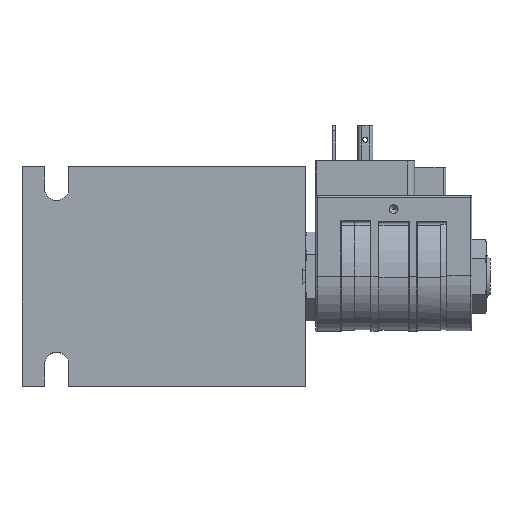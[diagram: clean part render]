
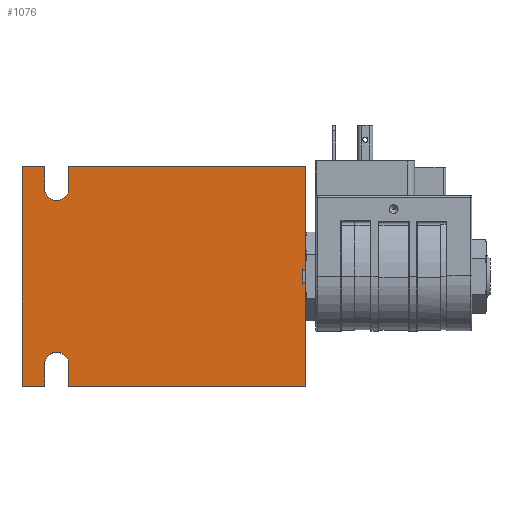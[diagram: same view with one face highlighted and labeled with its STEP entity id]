
A CAD part, top view. The second image highlights one B-rep face of the part: STEP entity #1076.
In plain terms, the highlighted planar face has unit normal (0, 0, 1).
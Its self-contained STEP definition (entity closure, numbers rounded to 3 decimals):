
#1076 = ADVANCED_FACE( '', ( #2242 ), #2243, .F. );
#2242 = FACE_OUTER_BOUND( '', #3933, .T. );
#2243 = PLANE( '', #3934 );
#3933 = EDGE_LOOP( '', ( #6053, #6054, #6055, #6056, #6057, #6058, #6059, #6060, #6061, #6062, #6063, #6064, #6065, #6066, #6067, #6068 ) );
#3934 = AXIS2_PLACEMENT_3D( '', #6069, #6070, #6071 );
#6053 = ORIENTED_EDGE( '', *, *, #8940, .F. );
#6054 = ORIENTED_EDGE( '', *, *, #9136, .F. );
#6055 = ORIENTED_EDGE( '', *, *, #9036, .F. );
#6056 = ORIENTED_EDGE( '', *, *, #9041, .F. );
#6057 = ORIENTED_EDGE( '', *, *, #9137, .F. );
#6058 = ORIENTED_EDGE( '', *, *, #9138, .T. );
#6059 = ORIENTED_EDGE( '', *, *, #9139, .T. );
#6060 = ORIENTED_EDGE( '', *, *, #8979, .T. );
#6061 = ORIENTED_EDGE( '', *, *, #9140, .F. );
#6062 = ORIENTED_EDGE( '', *, *, #9141, .F. );
#6063 = ORIENTED_EDGE( '', *, *, #9142, .T. );
#6064 = ORIENTED_EDGE( '', *, *, #9143, .T. );
#6065 = ORIENTED_EDGE( '', *, *, #9144, .T. );
#6066 = ORIENTED_EDGE( '', *, *, #9145, .F. );
#6067 = ORIENTED_EDGE( '', *, *, #9146, .F. );
#6068 = ORIENTED_EDGE( '', *, *, #9147, .F. );
#6069 = CARTESIAN_POINT( '', ( 0., 0., 31.75 ) );
#6070 = DIRECTION( '', ( 0., 0., -1. ) );
#6071 = DIRECTION( '', ( -1., 0., 0. ) );
#8940 = EDGE_CURVE( '', #11172, #11174, #11175, .T. );
#8979 = EDGE_CURVE( '', #11240, #11238, #11241, .T. );
#9036 = EDGE_CURVE( '', #11333, #11329, #11335, .T. );
#9041 = EDGE_CURVE( '', #11341, #11333, #11343, .T. );
#9136 = EDGE_CURVE( '', #11329, #11172, #11489, .T. );
#9137 = EDGE_CURVE( '', #11490, #11341, #11491, .T. );
#9138 = EDGE_CURVE( '', #11490, #11492, #11493, .T. );
#9139 = EDGE_CURVE( '', #11492, #11240, #11494, .T. );
#9140 = EDGE_CURVE( '', #11495, #11238, #11496, .T. );
#9141 = EDGE_CURVE( '', #11497, #11495, #11498, .T. );
#9142 = EDGE_CURVE( '', #11497, #11499, #11500, .T. );
#9143 = EDGE_CURVE( '', #11499, #11501, #11502, .T. );
#9144 = EDGE_CURVE( '', #11501, #11503, #11504, .F. );
#9145 = EDGE_CURVE( '', #11505, #11503, #11506, .T. );
#9146 = EDGE_CURVE( '', #11507, #11505, #11508, .T. );
#9147 = EDGE_CURVE( '', #11174, #11507, #11509, .T. );
#11172 = VERTEX_POINT( '', #13866 );
#11174 = VERTEX_POINT( '', #13869 );
#11175 = CIRCLE( '', #13870, 3.5 );
#11238 = VERTEX_POINT( '', #13964 );
#11240 = VERTEX_POINT( '', #13967 );
#11241 = LINE( '', #13968, #13969 );
#11329 = VERTEX_POINT( '', #14117 );
#11333 = VERTEX_POINT( '', #14123 );
#11335 = LINE( '', #14126, #14127 );
#11341 = VERTEX_POINT( '', #14134 );
#11343 = LINE( '', #14137, #14138 );
#11489 = LINE( '', #14571, #14572 );
#11490 = VERTEX_POINT( '', #14573 );
#11491 = LINE( '', #14574, #14575 );
#11492 = VERTEX_POINT( '', #14576 );
#11493 = LINE( '', #14577, #14578 );
#11494 = CIRCLE( '', #14579, 3.5 );
#11495 = VERTEX_POINT( '', #14580 );
#11496 = LINE( '', #14581, #14582 );
#11497 = VERTEX_POINT( '', #14583 );
#11498 = LINE( '', #14584, #14585 );
#11499 = VERTEX_POINT( '', #14586 );
#11500 = LINE( '', #14587, #14588 );
#11501 = VERTEX_POINT( '', #14589 );
#11502 = LINE( '', #14590, #14591 );
#11503 = VERTEX_POINT( '', #14592 );
#11504 = LINE( '', #14593, #14594 );
#11505 = VERTEX_POINT( '', #14595 );
#11506 = LINE( '', #14596, #14597 );
#11507 = VERTEX_POINT( '', #14598 );
#11508 = LINE( '', #14599, #14600 );
#11509 = LINE( '', #14601, #14602 );
#13866 = CARTESIAN_POINT( '', ( -34.5, 25.4, 31.75 ) );
#13869 = CARTESIAN_POINT( '', ( -27.5, 25.4, 31.75 ) );
#13870 = AXIS2_PLACEMENT_3D( '', #17924, #17925, #17926 );
#13964 = CARTESIAN_POINT( '', ( -27.5, -31.75, 31.75 ) );
#13967 = CARTESIAN_POINT( '', ( -27.5, -25.4, 31.75 ) );
#13968 = CARTESIAN_POINT( '', ( -27.5, -25.4, 31.75 ) );
#13969 = VECTOR( '', #17969, 1000. );
#14117 = CARTESIAN_POINT( '', ( -34.5, 31.75, 31.75 ) );
#14123 = CARTESIAN_POINT( '', ( -41., 31.75, 31.75 ) );
#14126 = CARTESIAN_POINT( '', ( -41., 31.75, 31.75 ) );
#14127 = VECTOR( '', #18055, 1000. );
#14134 = CARTESIAN_POINT( '', ( -41., -31.75, 31.75 ) );
#14137 = CARTESIAN_POINT( '', ( -41., -31.75, 31.75 ) );
#14138 = VECTOR( '', #18061, 1000. );
#14571 = CARTESIAN_POINT( '', ( -34.5, 31.75, 31.75 ) );
#14572 = VECTOR( '', #18140, 1000. );
#14573 = CARTESIAN_POINT( '', ( -34.5, -31.75, 31.75 ) );
#14574 = CARTESIAN_POINT( '', ( 41., -31.75, 31.75 ) );
#14575 = VECTOR( '', #18141, 1000. );
#14576 = CARTESIAN_POINT( '', ( -34.5, -25.4, 31.75 ) );
#14577 = CARTESIAN_POINT( '', ( -34.5, -31.75, 31.75 ) );
#14578 = VECTOR( '', #18142, 1000. );
#14579 = AXIS2_PLACEMENT_3D( '', #18143, #18144, #18145 );
#14580 = CARTESIAN_POINT( '', ( 41., -31.75, 31.75 ) );
#14581 = CARTESIAN_POINT( '', ( 41., -31.75, 31.75 ) );
#14582 = VECTOR( '', #18146, 1000. );
#14583 = CARTESIAN_POINT( '', ( 41., -1.623, 31.75 ) );
#14584 = CARTESIAN_POINT( '', ( 41., 31.75, 31.75 ) );
#14585 = VECTOR( '', #18147, 1000. );
#14586 = CARTESIAN_POINT( '', ( 40., -1.623, 31.75 ) );
#14587 = CARTESIAN_POINT( '', ( 41., -1.623, 31.75 ) );
#14588 = VECTOR( '', #18148, 1000. );
#14589 = CARTESIAN_POINT( '', ( 40., 1.623, 31.75 ) );
#14590 = CARTESIAN_POINT( '', ( 40., 0., 31.75 ) );
#14591 = VECTOR( '', #18149, 1000. );
#14592 = CARTESIAN_POINT( '', ( 41., 1.623, 31.75 ) );
#14593 = CARTESIAN_POINT( '', ( 41., 1.623, 31.75 ) );
#14594 = VECTOR( '', #18150, 1000. );
#14595 = CARTESIAN_POINT( '', ( 41., 31.75, 31.75 ) );
#14596 = CARTESIAN_POINT( '', ( 41., 31.75, 31.75 ) );
#14597 = VECTOR( '', #18151, 1000. );
#14598 = CARTESIAN_POINT( '', ( -27.5, 31.75, 31.75 ) );
#14599 = CARTESIAN_POINT( '', ( -41., 31.75, 31.75 ) );
#14600 = VECTOR( '', #18152, 1000. );
#14601 = CARTESIAN_POINT( '', ( -27.5, 25.4, 31.75 ) );
#14602 = VECTOR( '', #18153, 1000. );
#17924 = CARTESIAN_POINT( '', ( -31., 25.4, 31.75 ) );
#17925 = DIRECTION( '', ( 0., 0., 1. ) );
#17926 = DIRECTION( '', ( -1., 0., 0. ) );
#17969 = DIRECTION( '', ( 0., -1., 0. ) );
#18055 = DIRECTION( '', ( 1., 0., 0. ) );
#18061 = DIRECTION( '', ( 0., 1., 0. ) );
#18140 = DIRECTION( '', ( 0., -1., 0. ) );
#18141 = DIRECTION( '', ( -1., 0., 0. ) );
#18142 = DIRECTION( '', ( 0., 1., 0. ) );
#18143 = CARTESIAN_POINT( '', ( -31., -25.4, 31.75 ) );
#18144 = DIRECTION( '', ( 0., 0., -1. ) );
#18145 = DIRECTION( '', ( -1., 0., 0. ) );
#18146 = DIRECTION( '', ( -1., 0., 0. ) );
#18147 = DIRECTION( '', ( 0., -1., 0. ) );
#18148 = DIRECTION( '', ( -1., 0., 0. ) );
#18149 = DIRECTION( '', ( 0., 1., 0. ) );
#18150 = DIRECTION( '', ( -1., 0., 0. ) );
#18151 = DIRECTION( '', ( 0., -1., 0. ) );
#18152 = DIRECTION( '', ( 1., 0., 0. ) );
#18153 = DIRECTION( '', ( 0., 1., 0. ) );
